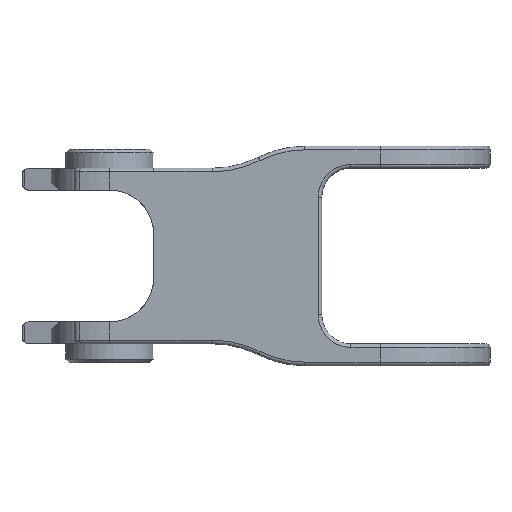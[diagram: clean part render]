
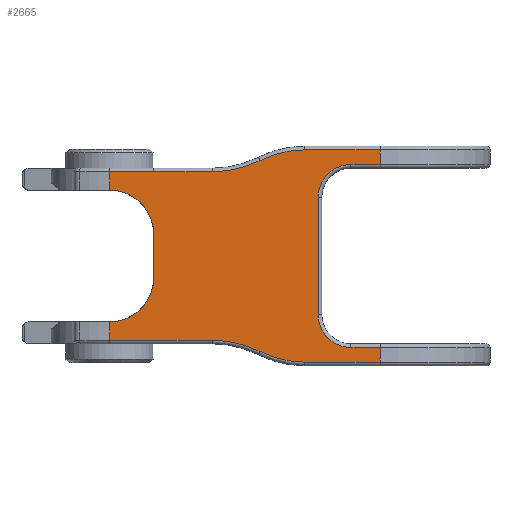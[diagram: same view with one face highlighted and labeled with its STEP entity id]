
A CAD part, front view. The second image highlights one B-rep face of the part: STEP entity #2665.
In plain terms, the highlighted planar face has unit normal (0, -1, 0).
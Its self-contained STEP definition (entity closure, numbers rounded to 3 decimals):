
#69=CARTESIAN_POINT('',(145.596,175.713,1.25));
#70=VERTEX_POINT('',#69);
#127=CARTESIAN_POINT('',(143.596,175.713,1.25));
#128=VERTEX_POINT('',#127);
#136=CARTESIAN_POINT('',(143.596,175.713,1.25));
#137=DIRECTION('',(1.0,0.0,0.0));
#138=VECTOR('',#137,2.);
#139=LINE('',#136,#138);
#140=EDGE_CURVE('',#128,#70,#139,.T.);
#193=CARTESIAN_POINT('',(141.346,175.713,3.5));
#194=VERTEX_POINT('',#193);
#202=CARTESIAN_POINT('',(143.596,175.713,3.5));
#203=DIRECTION('',(0.0,-1.,0.0));
#204=DIRECTION('',(-0.707,0.0,-0.707));
#205=AXIS2_PLACEMENT_3D('',#202,#203,#204);
#206=CIRCLE('',#205,2.25);
#207=EDGE_CURVE('',#194,#128,#206,.T.);
#259=CARTESIAN_POINT('',(141.346,175.713,11.5));
#260=VERTEX_POINT('',#259);
#268=CARTESIAN_POINT('',(141.346,175.713,11.5));
#269=DIRECTION('',(0.0,0.0,-1.0));
#270=VECTOR('',#269,8.);
#271=LINE('',#268,#270);
#272=EDGE_CURVE('',#260,#194,#271,.T.);
#325=CARTESIAN_POINT('',(143.596,175.713,13.75));
#326=VERTEX_POINT('',#325);
#334=CARTESIAN_POINT('',(143.596,175.713,11.5));
#335=DIRECTION('',(0.0,-1.,0.0));
#336=DIRECTION('',(-0.707,0.0,0.707));
#337=AXIS2_PLACEMENT_3D('',#334,#335,#336);
#338=CIRCLE('',#337,2.25);
#339=EDGE_CURVE('',#326,#260,#338,.T.);
#391=CARTESIAN_POINT('',(145.596,175.713,13.75));
#392=VERTEX_POINT('',#391);
#400=CARTESIAN_POINT('',(145.596,175.713,13.75));
#401=DIRECTION('',(-1.0,0.0,0.0));
#402=VECTOR('',#401,2.);
#403=LINE('',#400,#402);
#404=EDGE_CURVE('',#392,#326,#403,.T.);
#607=CARTESIAN_POINT('',(145.596,175.713,0.25));
#608=VERTEX_POINT('',#607);
#609=CARTESIAN_POINT('',(145.596,175.713,0.25));
#610=DIRECTION('',(0.0,0.0,1.0));
#611=VECTOR('',#610,1.);
#612=LINE('',#609,#611);
#613=EDGE_CURVE('',#608,#70,#612,.T.);
#807=CARTESIAN_POINT('',(130.115,175.713,13.25));
#808=VERTEX_POINT('',#807);
#826=CARTESIAN_POINT('',(127.096,175.713,13.25));
#827=VERTEX_POINT('',#826);
#835=CARTESIAN_POINT('',(127.096,175.713,13.25));
#836=DIRECTION('',(1.0,0.0,0.0));
#837=VECTOR('',#836,3.02);
#838=LINE('',#835,#837);
#839=EDGE_CURVE('',#827,#808,#838,.T.);
#850=CARTESIAN_POINT('',(134.115,175.713,13.25));
#851=VERTEX_POINT('',#850);
#852=CARTESIAN_POINT('',(130.115,175.713,13.25));
#853=DIRECTION('',(1.,0.0,0.));
#854=VECTOR('',#853,4.);
#855=LINE('',#852,#854);
#856=EDGE_CURVE('',#808,#851,#855,.T.);
#915=CARTESIAN_POINT('',(137.38,175.713,14.027));
#916=VERTEX_POINT('',#915);
#934=CARTESIAN_POINT('',(134.115,175.713,20.5));
#935=DIRECTION('',(0.0,-1.,0.0));
#936=DIRECTION('',(0.231,0.0,-0.973));
#937=AXIS2_PLACEMENT_3D('',#934,#935,#936);
#938=CIRCLE('',#937,7.25);
#939=EDGE_CURVE('',#851,#916,#938,.T.);
#983=CARTESIAN_POINT('',(140.42,175.713,14.75));
#984=VERTEX_POINT('',#983);
#1002=CARTESIAN_POINT('',(140.42,175.713,8.));
#1003=DIRECTION('',(0.0,1.,0.0));
#1004=DIRECTION('',(-0.231,0.0,0.973));
#1005=AXIS2_PLACEMENT_3D('',#1002,#1003,#1004);
#1006=CIRCLE('',#1005,6.75);
#1007=EDGE_CURVE('',#916,#984,#1006,.T.);
#1055=CARTESIAN_POINT('',(145.596,175.713,14.75));
#1056=VERTEX_POINT('',#1055);
#1073=CARTESIAN_POINT('',(140.42,175.713,14.75));
#1074=DIRECTION('',(1.0,0.0,0.0));
#1075=VECTOR('',#1074,5.176);
#1076=LINE('',#1073,#1075);
#1077=EDGE_CURVE('',#984,#1056,#1076,.T.);
#2280=CARTESIAN_POINT('',(140.42,175.713,0.25));
#2281=VERTEX_POINT('',#2280);
#2298=CARTESIAN_POINT('',(145.596,175.713,0.25));
#2299=DIRECTION('',(-1.0,0.0,0.0));
#2300=VECTOR('',#2299,5.176);
#2301=LINE('',#2298,#2300);
#2302=EDGE_CURVE('',#608,#2281,#2301,.T.);
#2312=CARTESIAN_POINT('',(137.38,175.713,0.973));
#2313=VERTEX_POINT('',#2312);
#2331=CARTESIAN_POINT('',(140.42,175.713,7.));
#2332=DIRECTION('',(0.0,1.,0.0));
#2333=DIRECTION('',(-0.231,0.0,-0.973));
#2334=AXIS2_PLACEMENT_3D('',#2331,#2332,#2333);
#2335=CIRCLE('',#2334,6.75);
#2336=EDGE_CURVE('',#2281,#2313,#2335,.T.);
#2346=CARTESIAN_POINT('',(134.115,175.713,1.75));
#2347=VERTEX_POINT('',#2346);
#2365=CARTESIAN_POINT('',(134.115,175.713,-5.5));
#2366=DIRECTION('',(0.0,-1.0,0.0));
#2367=DIRECTION('',(0.231,0.0,0.973));
#2368=AXIS2_PLACEMENT_3D('',#2365,#2366,#2367);
#2369=CIRCLE('',#2368,7.25);
#2370=EDGE_CURVE('',#2313,#2347,#2369,.T.);
#2380=CARTESIAN_POINT('',(127.096,175.713,1.75));
#2381=VERTEX_POINT('',#2380);
#2398=CARTESIAN_POINT('',(134.115,175.713,1.75));
#2399=DIRECTION('',(-1.0,0.0,0.0));
#2400=VECTOR('',#2399,7.02);
#2401=LINE('',#2398,#2400);
#2402=EDGE_CURVE('',#2347,#2381,#2401,.T.);
#2577=CARTESIAN_POINT('',(145.596,175.713,13.75));
#2578=DIRECTION('',(0.0,0.0,1.0));
#2579=VECTOR('',#2578,1.);
#2580=LINE('',#2577,#2579);
#2581=EDGE_CURVE('',#392,#1056,#2580,.T.);
#2586=CARTESIAN_POINT('',(145.596,175.713,0.0));
#2587=DIRECTION('',(0.0,-1.0,0.0));
#2588=DIRECTION('',(0.0,0.0,-1.0));
#2589=AXIS2_PLACEMENT_3D('',#2586,#2587,#2588);
#2590=PLANE('',#2589);
#2591=ORIENTED_EDGE('',*,*,#404,.F.);
#2592=ORIENTED_EDGE('',*,*,#2581,.T.);
#2593=ORIENTED_EDGE('',*,*,#1077,.F.);
#2594=ORIENTED_EDGE('',*,*,#1007,.F.);
#2595=ORIENTED_EDGE('',*,*,#939,.F.);
#2596=ORIENTED_EDGE('',*,*,#856,.F.);
#2597=ORIENTED_EDGE('',*,*,#839,.F.);
#2598=CARTESIAN_POINT('',(127.096,175.713,12.));
#2599=VERTEX_POINT('',#2598);
#2600=CARTESIAN_POINT('',(127.096,175.713,12.));
#2601=DIRECTION('',(0.0,0.0,1.0));
#2602=VECTOR('',#2601,1.25);
#2603=LINE('',#2600,#2602);
#2604=EDGE_CURVE('',#2599,#827,#2603,.T.);
#2605=ORIENTED_EDGE('',*,*,#2604,.F.);
#2606=CARTESIAN_POINT('',(127.115,175.713,12.));
#2607=VERTEX_POINT('',#2606);
#2608=CARTESIAN_POINT('',(127.096,175.713,12.));
#2609=DIRECTION('',(1.0,0.,0.0));
#2610=VECTOR('',#2609,0.02);
#2611=LINE('',#2608,#2610);
#2612=EDGE_CURVE('',#2599,#2607,#2611,.T.);
#2613=ORIENTED_EDGE('',*,*,#2612,.T.);
#2614=CARTESIAN_POINT('',(130.115,175.713,9.));
#2615=VERTEX_POINT('',#2614);
#2616=CARTESIAN_POINT('',(127.115,175.713,9.));
#2617=DIRECTION('',(0.0,1.0,0.0));
#2618=DIRECTION('',(0.0,0.0,-1.0));
#2619=AXIS2_PLACEMENT_3D('',#2616,#2617,#2618);
#2620=CIRCLE('',#2619,3.);
#2621=EDGE_CURVE('',#2607,#2615,#2620,.T.);
#2622=ORIENTED_EDGE('',*,*,#2621,.T.);
#2623=CARTESIAN_POINT('',(130.115,175.713,6.));
#2624=VERTEX_POINT('',#2623);
#2625=CARTESIAN_POINT('',(130.115,175.713,9.));
#2626=DIRECTION('',(0.0,0.0,-1.0));
#2627=VECTOR('',#2626,3.);
#2628=LINE('',#2625,#2627);
#2629=EDGE_CURVE('',#2615,#2624,#2628,.T.);
#2630=ORIENTED_EDGE('',*,*,#2629,.T.);
#2631=CARTESIAN_POINT('',(127.115,175.713,3.));
#2632=VERTEX_POINT('',#2631);
#2633=CARTESIAN_POINT('',(127.115,175.713,6.));
#2634=DIRECTION('',(0.0,1.0,0.0));
#2635=DIRECTION('',(-1.0,0.0,0.0));
#2636=AXIS2_PLACEMENT_3D('',#2633,#2634,#2635);
#2637=CIRCLE('',#2636,3.);
#2638=EDGE_CURVE('',#2624,#2632,#2637,.T.);
#2639=ORIENTED_EDGE('',*,*,#2638,.T.);
#2640=CARTESIAN_POINT('',(127.096,175.713,3.));
#2641=VERTEX_POINT('',#2640);
#2642=CARTESIAN_POINT('',(127.115,175.713,3.));
#2643=DIRECTION('',(-1.0,0.,0.0));
#2644=VECTOR('',#2643,0.02);
#2645=LINE('',#2642,#2644);
#2646=EDGE_CURVE('',#2632,#2641,#2645,.T.);
#2647=ORIENTED_EDGE('',*,*,#2646,.T.);
#2648=CARTESIAN_POINT('',(127.096,175.713,1.75));
#2649=DIRECTION('',(0.0,0.0,1.0));
#2650=VECTOR('',#2649,1.25);
#2651=LINE('',#2648,#2650);
#2652=EDGE_CURVE('',#2381,#2641,#2651,.T.);
#2653=ORIENTED_EDGE('',*,*,#2652,.F.);
#2654=ORIENTED_EDGE('',*,*,#2402,.F.);
#2655=ORIENTED_EDGE('',*,*,#2370,.F.);
#2656=ORIENTED_EDGE('',*,*,#2336,.F.);
#2657=ORIENTED_EDGE('',*,*,#2302,.F.);
#2658=ORIENTED_EDGE('',*,*,#613,.T.);
#2659=ORIENTED_EDGE('',*,*,#140,.F.);
#2660=ORIENTED_EDGE('',*,*,#207,.F.);
#2661=ORIENTED_EDGE('',*,*,#272,.F.);
#2662=ORIENTED_EDGE('',*,*,#339,.F.);
#2663=EDGE_LOOP('',(#2591,#2592,#2593,#2594,#2595,#2596,#2597,#2605,#2613,#2622,#2630,#2639,#2647,#2653,#2654,#2655,#2656,#2657,#2658,#2659,#2660,#2661,#2662));
#2664=FACE_OUTER_BOUND('',#2663,.T.);
#2665=ADVANCED_FACE('',(#2664),#2590,.T.);
